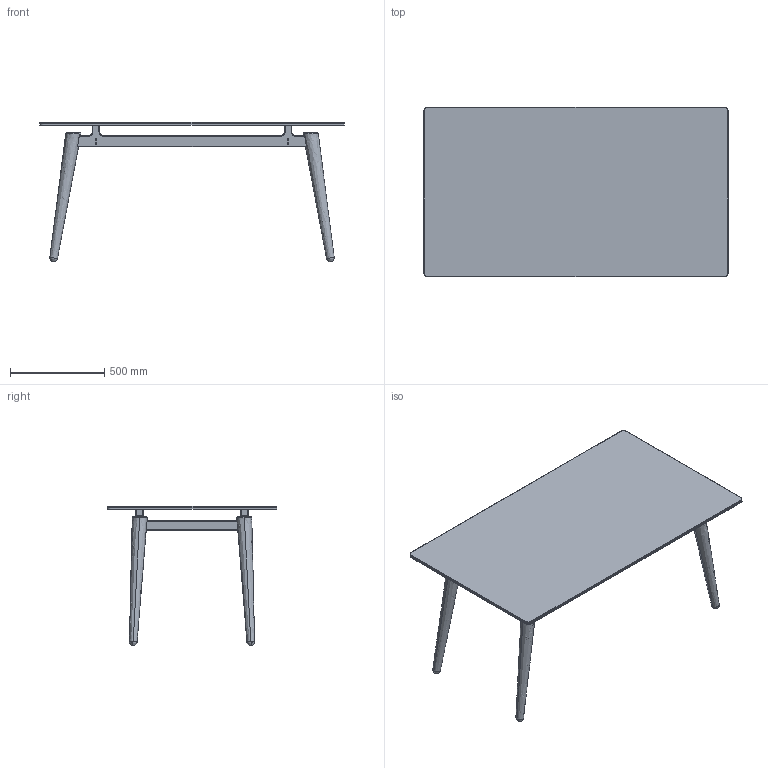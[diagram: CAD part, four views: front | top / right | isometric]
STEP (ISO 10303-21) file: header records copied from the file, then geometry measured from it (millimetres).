
FILE_DESCRIPTION(/* description */ (''),/* implementation_level */ '2;1');
FILE_NAME(/* name */ 'Evolve Mesa - Sobre Porcelanico',/* time_stamp */ '2019-09-27T12:49:53+02:00',/* author */ (''),/* organization */ (''),/* preprocessor_version */ 'ST-DEVELOPER v16.5',/* originating_system */ '',/* authorisation */ '');
FILE_SCHEMA (('AUTOMOTIVE_DESIGN'));
Length unit declared in the file: millimetre
Products named in the file (1): Document
Bounding box: 1615 x 900 x 741 mm (x, y, z)
Volume: 39524915.9 mm3; surface area: 7139303.6 mm2
Topology: 18 solids, 18 shells, 332 faces, 744 edges, 456 vertices
Faces by surface type: bspline 252, plane 80
Entity records: 16006 total; most frequent: CARTESIAN_POINT 11630, ORIENTED_EDGE 1472, EDGE_CURVE 736, VERTEX_POINT 456, EDGE_LOOP 364, B_SPLINE_CURVE_WITH_KNOTS 336, ADVANCED_FACE 332, FACE_OUTER_BOUND 332
